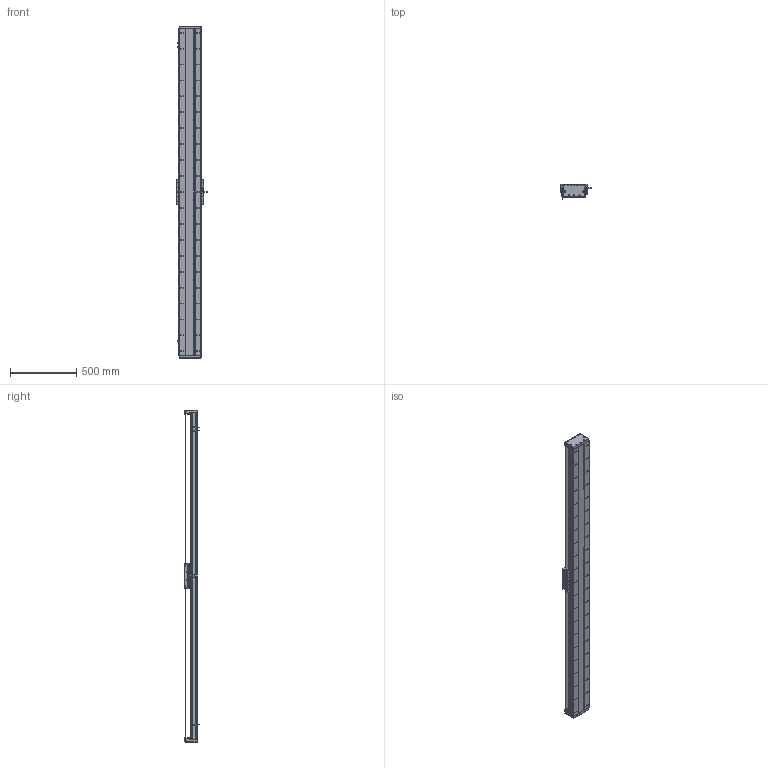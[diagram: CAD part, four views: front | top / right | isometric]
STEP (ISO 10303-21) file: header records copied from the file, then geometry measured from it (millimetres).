
FILE_DESCRIPTION (( 'STEP AP203' ), '1' );
FILE_NAME ('DA-C165-C2-T2220-C010-0.2 直线电机.STEP', '2023-05-11T07:46:25', ( '微软用户' ), ( '微软中国' ), 'SwSTEP 2.0', 'SolidWorks 2019', '' );
FILE_SCHEMA (( 'CONFIG_CONTROL_DESIGN' ));
Length unit declared in the file: millimetre
Products named in the file (18): 复件 DA165-GD-1860-002-00 钢带盖板^复件 CU165钢带组件_DA-C165-C2-T-C010-0.2-N 直线电机; IU-CU165-L 菁釱絳寢; 葩璃 PM-T45^DA-C165-C2-T-C010-0.2-N 眻盄萇儂; 珨极趙賑雄怢啣wf-C2; 复件 CKM02-W075-C1C2-TP-3.0 一体电机-C2^DA-C165-C2-T-C010-0.2-N 直线电机; 葩璃 DA95-GT-T-00^IU-CU165-L 菁釱絳寢_T; 复件 DA165-GD-DG-H-00 端盖^复件 CU165钢带组件_DA-C165-C2-T-C010-0.2-N 直线电机; 复件 DA165-GDYK-00 钢带压块^复件 CU165钢带组件_DA-C165-C2-T-C010-0.2-N 直线电机; IU-CU165-L-00 菁釱_L2460; 复件 六角薄螺母 M3^DA-C165-C2-T-C010-0.2-N 直线电机_GB_FASTENER_NUT_STNAB M3-C; 复件 DA165-GYP-00 光电感应片^DA-C165-C2-T-C010-0.2-N 直线电机; DA-C165-C2-T2220-C010-0.2 眻盄萇儂; 复件 XD-U-02L 磁栅尺^DA-C165-C2-T-C010-0.2-N 直线电机_T; 复件 CU165钢带组件^DA-C165-C2-T-C010-0.2-N 直线电机; 葩璃 CKM01-W075-TRL^DA-C165-C2-T-C010-0.2-N 眻盄萇儂; 复件 DA165-GDLK-00 钢带拉块^复件 CU165钢带组件_DA-C165-C2-T-C010-0.2-N 直线电机; 复件 DA95-HXJ-00 缓冲橡胶^DA-C165-C2-T-C010-0.2-N 直线电机; 复件 DMA-010-0.2 读数头^DA-C165-C2-T-C010-0.2-N 直线电机
Assembly tree (33 placements, depth 3):
  DA-C165-C2-T2220-C010-0.2 眻盄萇儂
    IU-CU165-L 菁釱絳寢
      IU-CU165-L-00 菁釱_L2460
      葩璃 DA95-GT-T-00^IU-CU165-L 菁釱絳寢_T  x4
    复件 XD-U-02L 磁栅尺^DA-C165-C2-T-C010-0.2-N 直线电机_T
    葩璃 PM-T45^DA-C165-C2-T-C010-0.2-N 眻盄萇儂  x3
    葩璃 CKM01-W075-TRL^DA-C165-C2-T-C010-0.2-N 眻盄萇儂
    复件 CU165钢带组件^DA-C165-C2-T-C010-0.2-N 直线电机
      复件 DA165-GD-DG-H-00 端盖^复件 CU165钢带组件_DA-C165-C2-T-C010-0.2-N 直线电机  x2
      复件 DA165-GDYK-00 钢带压块^复件 CU165钢带组件_DA-C165-C2-T-C010-0.2-N 直线电机  x2
      复件 DA165-GD-1860-002-00 钢带盖板^复件 CU165钢带组件_DA-C165-C2-T-C010-0.2-N 直线电机
      复件 DA165-GDLK-00 钢带拉块^复件 CU165钢带组件_DA-C165-C2-T-C010-0.2-N 直线电机  x2
    复件 DA95-HXJ-00 缓冲橡胶^DA-C165-C2-T-C010-0.2-N 直线电机  x4
    复件 DA165-GYP-00 光电感应片^DA-C165-C2-T-C010-0.2-N 直线电机
    复件 DMA-010-0.2 读数头^DA-C165-C2-T-C010-0.2-N 直线电机
    复件 CKM02-W075-C1C2-TP-3.0 一体电机-C2^DA-C165-C2-T-C010-0.2-N 直线电机
    复件 六角薄螺母 M3^DA-C165-C2-T-C010-0.2-N 直线电机_GB_FASTENER_NUT_STNAB M3-C  x6
    珨极趙賑雄怢啣wf-C2
Bounding box: 233 x 111.45 x 2500 mm (x, y, z)
Volume: 13992508.6 mm3; surface area: 4201976 mm2
Topology: 70 solids, 70 shells, 3831 faces, 11221 edges, 7165 vertices
Faces by surface type: cylinder 2253, plane 1098, cone 430, torus 46, sphere 4
Entity records: 128659 total; most frequent: CARTESIAN_POINT 34699, ORIENTED_EDGE 19614, DIRECTION 18897, EDGE_CURVE 9807, AXIS2_PLACEMENT_3D 7217, VERTEX_POINT 6401, EDGE_LOOP 4476, LINE 4463
